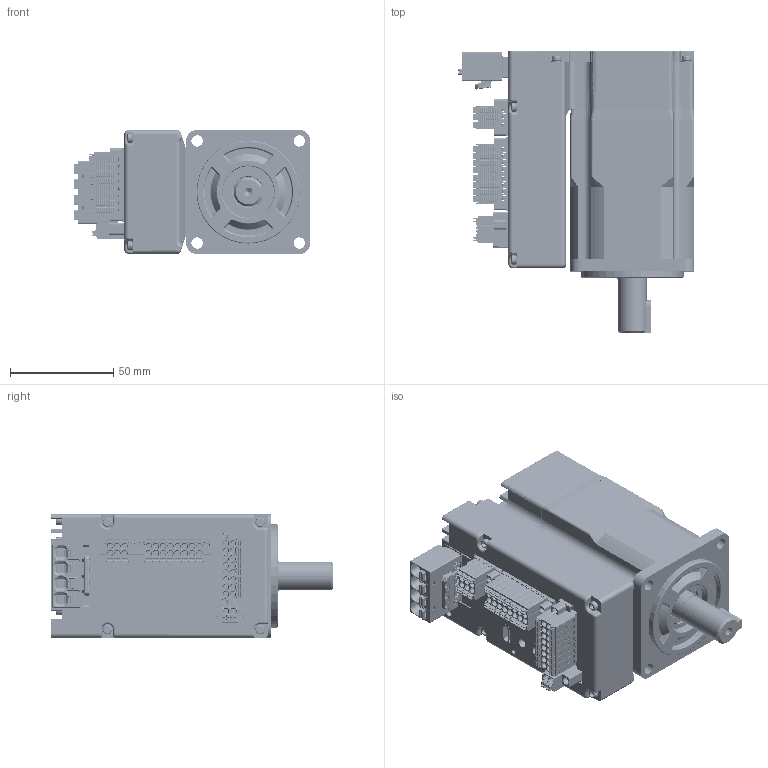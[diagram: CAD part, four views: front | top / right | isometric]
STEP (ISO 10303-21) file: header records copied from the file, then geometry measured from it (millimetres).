
FILE_DESCRIPTION((''),'2;1');
FILE_NAME('ISMD60D-040-DQAK-AS-000','2025-10-31T11:37:13',('RD0060'),(''),'CREO PARAMETRIC BY PTC INC, 2016510','CREO PARAMETRIC BY PTC INC, 2016510','');
FILE_SCHEMA(('CONFIG_CONTROL_DESIGN'));
Products named in the file (1): ISMD60D-040-DQAK-AS-000
Bounding box: 114.55 x 137 x 60.1 mm (x, y, z)
Surface area: 160373.5 mm2 (no closed solid volume)
Topology: 0 solids, 418 shells, 7719 faces, 25954 edges, 18313 vertices
Faces by surface type: plane 5062, cylinder 1609, torus 462, cone 225, bspline 173, sphere 163, extrusion 25
Entity records: 292197 total; most frequent: CARTESIAN_POINT 75332, DIRECTION 42476, ORIENTED_EDGE 41797, EDGE_CURVE 25739, VERTEX_POINT 18318, VECTOR 17382, LINE 17357, AXIS2_PLACEMENT_3D 12547
